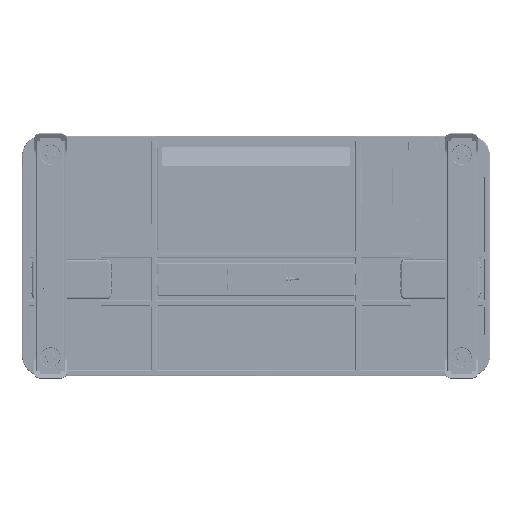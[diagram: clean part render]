
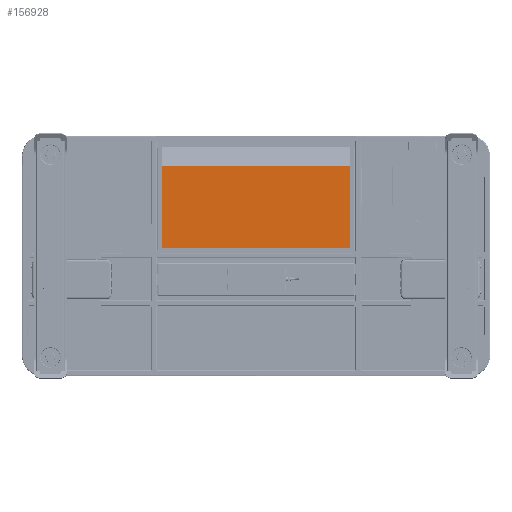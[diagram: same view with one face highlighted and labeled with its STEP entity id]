
A CAD part, front view. The second image highlights one B-rep face of the part: STEP entity #156928.
In plain terms, the highlighted planar face has unit normal (0, -1, 0).
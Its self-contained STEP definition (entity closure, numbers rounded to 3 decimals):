
#156429=CARTESIAN_POINT('Vertex',(-229.3,0.,-1.2)) ;
#156432=CARTESIAN_POINT('Line Origine',(229.3,0.,-1.2)) ;
#156436=CARTESIAN_POINT('Vertex',(229.3,0.,-1.2)) ;
#156762=CARTESIAN_POINT('Axis2P3D Location',(229.3,0.,0.)) ;
#156767=CARTESIAN_POINT('Line Origine',(-229.3,0.,-101.134)) ;
#156771=CARTESIAN_POINT('Vertex',(-229.3,0.,-201.068)) ;
#156774=CARTESIAN_POINT('Line Origine',(0.,0.,-201.068)) ;
#156778=CARTESIAN_POINT('Vertex',(229.3,0.,-201.068)) ;
#156781=CARTESIAN_POINT('Line Origine',(229.3,0.,-101.134)) ;
#156792=CARTESIAN_POINT('Line Origine',(-60.,0.,-191.4)) ;
#156796=CARTESIAN_POINT('Vertex',(-65.,0.,-191.4)) ;
#156798=CARTESIAN_POINT('Vertex',(-55.,0.,-191.4)) ;
#156801=CARTESIAN_POINT('Line Origine',(-65.,0.,-191.05)) ;
#156805=CARTESIAN_POINT('Vertex',(-65.,0.,-190.7)) ;
#156808=CARTESIAN_POINT('Line Origine',(-60.,0.,-190.7)) ;
#156812=CARTESIAN_POINT('Vertex',(-55.,0.,-190.7)) ;
#156815=CARTESIAN_POINT('Line Origine',(-55.,0.,-191.05)) ;
#156826=CARTESIAN_POINT('Line Origine',(60.,0.,-191.4)) ;
#156830=CARTESIAN_POINT('Vertex',(55.,0.,-191.4)) ;
#156832=CARTESIAN_POINT('Vertex',(65.,0.,-191.4)) ;
#156835=CARTESIAN_POINT('Line Origine',(55.,0.,-191.05)) ;
#156839=CARTESIAN_POINT('Vertex',(55.,0.,-190.7)) ;
#156842=CARTESIAN_POINT('Line Origine',(60.,0.,-190.7)) ;
#156846=CARTESIAN_POINT('Vertex',(65.,0.,-190.7)) ;
#156849=CARTESIAN_POINT('Line Origine',(65.,0.,-191.05)) ;
#156860=CARTESIAN_POINT('Line Origine',(175.,0.,-191.05)) ;
#156864=CARTESIAN_POINT('Vertex',(175.,0.,-190.7)) ;
#156866=CARTESIAN_POINT('Vertex',(175.,0.,-191.4)) ;
#156869=CARTESIAN_POINT('Line Origine',(180.,0.,-190.7)) ;
#156873=CARTESIAN_POINT('Vertex',(185.,0.,-190.7)) ;
#156876=CARTESIAN_POINT('Line Origine',(185.,0.,-191.05)) ;
#156880=CARTESIAN_POINT('Vertex',(185.,0.,-191.4)) ;
#156883=CARTESIAN_POINT('Line Origine',(180.,0.,-191.4)) ;
#156894=CARTESIAN_POINT('Line Origine',(-180.,0.,-191.4)) ;
#156898=CARTESIAN_POINT('Vertex',(-185.,0.,-191.4)) ;
#156900=CARTESIAN_POINT('Vertex',(-175.,0.,-191.4)) ;
#156903=CARTESIAN_POINT('Line Origine',(-185.,0.,-191.05)) ;
#156907=CARTESIAN_POINT('Vertex',(-185.,0.,-190.7)) ;
#156910=CARTESIAN_POINT('Line Origine',(-180.,0.,-190.7)) ;
#156914=CARTESIAN_POINT('Vertex',(-175.,0.,-190.7)) ;
#156917=CARTESIAN_POINT('Line Origine',(-175.,0.,-191.05)) ;
#156433=DIRECTION('Vector Direction',(-1.,0.,0.)) ;
#156763=DIRECTION('Axis2P3D Direction',(0.,-1.,0.)) ;
#156764=DIRECTION('Axis2P3D XDirection',(0.,0.,-1.)) ;
#156768=DIRECTION('Vector Direction',(0.,0.,1.)) ;
#156775=DIRECTION('Vector Direction',(-1.,0.,0.)) ;
#156782=DIRECTION('Vector Direction',(0.,0.,1.)) ;
#156793=DIRECTION('Vector Direction',(1.,0.,0.)) ;
#156802=DIRECTION('Vector Direction',(0.,0.,-1.)) ;
#156809=DIRECTION('Vector Direction',(-1.,0.,0.)) ;
#156816=DIRECTION('Vector Direction',(0.,0.,1.)) ;
#156827=DIRECTION('Vector Direction',(1.,0.,0.)) ;
#156836=DIRECTION('Vector Direction',(0.,0.,-1.)) ;
#156843=DIRECTION('Vector Direction',(-1.,0.,0.)) ;
#156850=DIRECTION('Vector Direction',(0.,0.,1.)) ;
#156861=DIRECTION('Vector Direction',(0.,0.,-1.)) ;
#156870=DIRECTION('Vector Direction',(-1.,0.,0.)) ;
#156877=DIRECTION('Vector Direction',(0.,0.,1.)) ;
#156884=DIRECTION('Vector Direction',(1.,0.,0.)) ;
#156895=DIRECTION('Vector Direction',(1.,0.,0.)) ;
#156904=DIRECTION('Vector Direction',(0.,0.,-1.)) ;
#156911=DIRECTION('Vector Direction',(-1.,0.,0.)) ;
#156918=DIRECTION('Vector Direction',(0.,0.,1.)) ;
#156765=AXIS2_PLACEMENT_3D('Plane Axis2P3D',#156762,#156763,#156764) ;
#156787=ORIENTED_EDGE('',*,*,#156438,.T.) ;
#156788=ORIENTED_EDGE('',*,*,#156773,.F.) ;
#156789=ORIENTED_EDGE('',*,*,#156780,.F.) ;
#156790=ORIENTED_EDGE('',*,*,#156785,.T.) ;
#156821=ORIENTED_EDGE('',*,*,#156800,.F.) ;
#156822=ORIENTED_EDGE('',*,*,#156807,.F.) ;
#156823=ORIENTED_EDGE('',*,*,#156814,.F.) ;
#156824=ORIENTED_EDGE('',*,*,#156819,.F.) ;
#156855=ORIENTED_EDGE('',*,*,#156834,.F.) ;
#156856=ORIENTED_EDGE('',*,*,#156841,.F.) ;
#156857=ORIENTED_EDGE('',*,*,#156848,.F.) ;
#156858=ORIENTED_EDGE('',*,*,#156853,.F.) ;
#156889=ORIENTED_EDGE('',*,*,#156868,.F.) ;
#156890=ORIENTED_EDGE('',*,*,#156875,.F.) ;
#156891=ORIENTED_EDGE('',*,*,#156882,.F.) ;
#156892=ORIENTED_EDGE('',*,*,#156887,.F.) ;
#156923=ORIENTED_EDGE('',*,*,#156902,.F.) ;
#156924=ORIENTED_EDGE('',*,*,#156909,.F.) ;
#156925=ORIENTED_EDGE('',*,*,#156916,.F.) ;
#156926=ORIENTED_EDGE('',*,*,#156921,.F.) ;
#156825=FACE_BOUND('',#156820,.T.) ;
#156859=FACE_BOUND('',#156854,.T.) ;
#156893=FACE_BOUND('',#156888,.T.) ;
#156927=FACE_BOUND('',#156922,.T.) ;
#156434=VECTOR('Line Direction',#156433,1.) ;
#156769=VECTOR('Line Direction',#156768,1.) ;
#156776=VECTOR('Line Direction',#156775,1.) ;
#156783=VECTOR('Line Direction',#156782,1.) ;
#156794=VECTOR('Line Direction',#156793,1.) ;
#156803=VECTOR('Line Direction',#156802,1.) ;
#156810=VECTOR('Line Direction',#156809,1.) ;
#156817=VECTOR('Line Direction',#156816,1.) ;
#156828=VECTOR('Line Direction',#156827,1.) ;
#156837=VECTOR('Line Direction',#156836,1.) ;
#156844=VECTOR('Line Direction',#156843,1.) ;
#156851=VECTOR('Line Direction',#156850,1.) ;
#156862=VECTOR('Line Direction',#156861,1.) ;
#156871=VECTOR('Line Direction',#156870,1.) ;
#156878=VECTOR('Line Direction',#156877,1.) ;
#156885=VECTOR('Line Direction',#156884,1.) ;
#156896=VECTOR('Line Direction',#156895,1.) ;
#156905=VECTOR('Line Direction',#156904,1.) ;
#156912=VECTOR('Line Direction',#156911,1.) ;
#156919=VECTOR('Line Direction',#156918,1.) ;
#156928=ADVANCED_FACE('\X2\52079664\X0\-\X2\62C94F38\X0\8',(#156791,#156825,#156859,#156893,#156927),#156766,.T.) ;
#156438=EDGE_CURVE('',#156437,#156430,#156435,.T.) ;
#156773=EDGE_CURVE('',#156772,#156430,#156770,.T.) ;
#156780=EDGE_CURVE('',#156779,#156772,#156777,.T.) ;
#156785=EDGE_CURVE('',#156779,#156437,#156784,.T.) ;
#156800=EDGE_CURVE('',#156797,#156799,#156795,.T.) ;
#156807=EDGE_CURVE('',#156806,#156797,#156804,.T.) ;
#156814=EDGE_CURVE('',#156813,#156806,#156811,.T.) ;
#156819=EDGE_CURVE('',#156799,#156813,#156818,.T.) ;
#156834=EDGE_CURVE('',#156831,#156833,#156829,.T.) ;
#156841=EDGE_CURVE('',#156840,#156831,#156838,.T.) ;
#156848=EDGE_CURVE('',#156847,#156840,#156845,.T.) ;
#156853=EDGE_CURVE('',#156833,#156847,#156852,.T.) ;
#156868=EDGE_CURVE('',#156865,#156867,#156863,.T.) ;
#156875=EDGE_CURVE('',#156874,#156865,#156872,.T.) ;
#156882=EDGE_CURVE('',#156881,#156874,#156879,.T.) ;
#156887=EDGE_CURVE('',#156867,#156881,#156886,.T.) ;
#156902=EDGE_CURVE('',#156899,#156901,#156897,.T.) ;
#156909=EDGE_CURVE('',#156908,#156899,#156906,.T.) ;
#156916=EDGE_CURVE('',#156915,#156908,#156913,.T.) ;
#156921=EDGE_CURVE('',#156901,#156915,#156920,.T.) ;
#156786=EDGE_LOOP('',(#156787,#156788,#156789,#156790)) ;
#156820=EDGE_LOOP('',(#156821,#156822,#156823,#156824)) ;
#156854=EDGE_LOOP('',(#156855,#156856,#156857,#156858)) ;
#156888=EDGE_LOOP('',(#156889,#156890,#156891,#156892)) ;
#156922=EDGE_LOOP('',(#156923,#156924,#156925,#156926)) ;
#156791=FACE_OUTER_BOUND('',#156786,.T.) ;
#156435=LINE('Line',#156432,#156434) ;
#156770=LINE('Line',#156767,#156769) ;
#156777=LINE('Line',#156774,#156776) ;
#156784=LINE('Line',#156781,#156783) ;
#156795=LINE('Line',#156792,#156794) ;
#156804=LINE('Line',#156801,#156803) ;
#156811=LINE('Line',#156808,#156810) ;
#156818=LINE('Line',#156815,#156817) ;
#156829=LINE('Line',#156826,#156828) ;
#156838=LINE('Line',#156835,#156837) ;
#156845=LINE('Line',#156842,#156844) ;
#156852=LINE('Line',#156849,#156851) ;
#156863=LINE('Line',#156860,#156862) ;
#156872=LINE('Line',#156869,#156871) ;
#156879=LINE('Line',#156876,#156878) ;
#156886=LINE('Line',#156883,#156885) ;
#156897=LINE('Line',#156894,#156896) ;
#156906=LINE('Line',#156903,#156905) ;
#156913=LINE('Line',#156910,#156912) ;
#156920=LINE('Line',#156917,#156919) ;
#156766=PLANE('',#156765) ;
#156430=VERTEX_POINT('',#156429) ;
#156437=VERTEX_POINT('',#156436) ;
#156772=VERTEX_POINT('',#156771) ;
#156779=VERTEX_POINT('',#156778) ;
#156797=VERTEX_POINT('',#156796) ;
#156799=VERTEX_POINT('',#156798) ;
#156806=VERTEX_POINT('',#156805) ;
#156813=VERTEX_POINT('',#156812) ;
#156831=VERTEX_POINT('',#156830) ;
#156833=VERTEX_POINT('',#156832) ;
#156840=VERTEX_POINT('',#156839) ;
#156847=VERTEX_POINT('',#156846) ;
#156865=VERTEX_POINT('',#156864) ;
#156867=VERTEX_POINT('',#156866) ;
#156874=VERTEX_POINT('',#156873) ;
#156881=VERTEX_POINT('',#156880) ;
#156899=VERTEX_POINT('',#156898) ;
#156901=VERTEX_POINT('',#156900) ;
#156908=VERTEX_POINT('',#156907) ;
#156915=VERTEX_POINT('',#156914) ;
